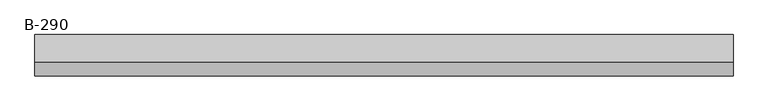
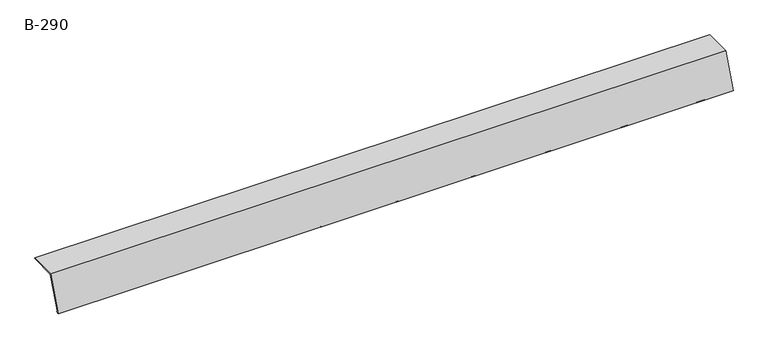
"""IFC4 building model written with IfcOpenShell, lengths in millimetres: proxy geometry, GROVIK_Flashing_Eaves_Custom : B-290."""

from ifc_helpers import new_model, si_unit, frame, origin, place, context, project, spatial, polyline, outline, extrude, source, transform, mapped, element, save


def b_290_bcbdf5cb(model_context):
    return source(origin(), model_context, "Body", "SweptSolid", [
        extrude(outline(polyline([(-0.6918582, 0.9880759), (-57.9129574, -148.077984), (-48.2100002, -145.6587651), (-47.9680783, -146.6290608), (-59.5349563, -149.5130074), (-1.3837164, 1.9761518), (118.9469709, 4.0765318), (118.9644233, 3.0766841), (-0.6918582, 0.9880759)])), frame((0.0, 0.0, 0.0), z_axis=(1.0, 0.0, 0.0), x_axis=(0.0, 1.0, 0.0)), (0.0, 0.0, 1.0), 3000.0),
    ])


if __name__ == "__main__":
    model = new_model("IFC4")
    model_context = context("Model", 3, world=origin())
    ifc_project = project(units=[si_unit("LENGTHUNIT", "METRE", prefix="MILLI")], contexts=[model_context])
    site = spatial("IfcSite", under=ifc_project)
    building = spatial("IfcBuilding", under=site)
    placement = place(None, origin())
    b_290_shape = b_290_bcbdf5cb(model_context)
    element("IfcBuildingElementProxy", 1, Name="GROVIK_Flashing_Eaves_Custom : B-290", ObjectType="GROVIK_Flashing_Eaves_Custom : B-290", at=placement, inside=building, context=model_context, shape_type="MappedRepresentation", body=[
        mapped(b_290_shape, transform((0.0, 0.0, 0.0), x_axis=(1.0, 0.0, 0.0), y_axis=(0.0, 1.0, 0.0), z_axis=(0.0, 0.0, 1.0))),
    ])
    save(model, "model.ifc")
